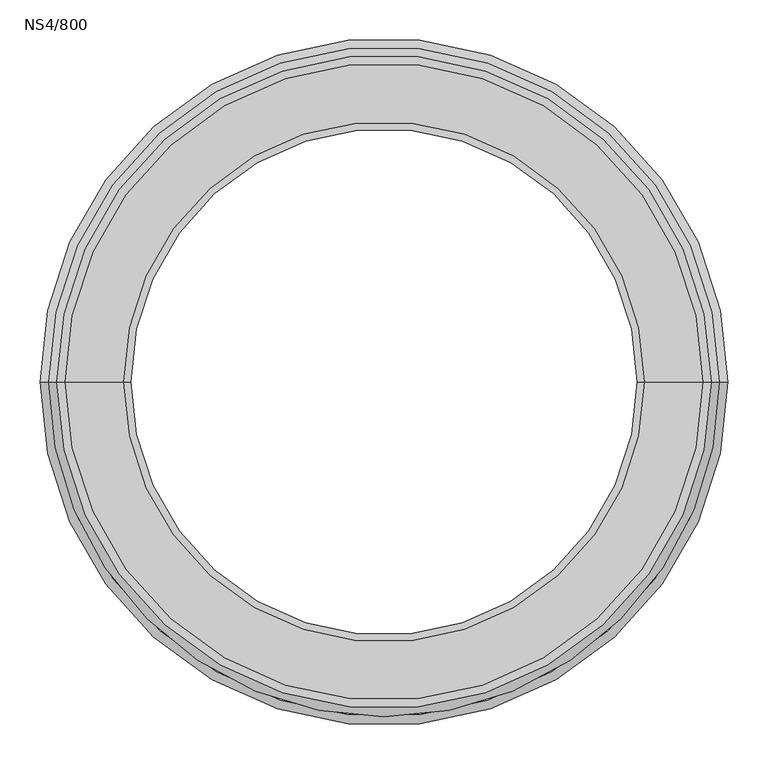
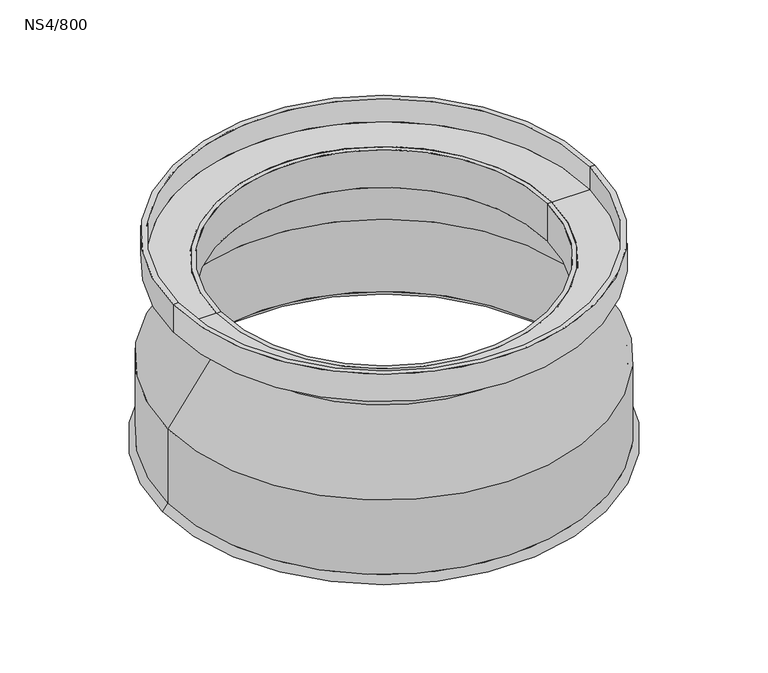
"""IFC4 building model written with IfcOpenShell, lengths in millimetres: proxy geometry, ME_PE_UN_Lipumax-PSD_ACO : NS4/800."""

from ifc_helpers import new_model, si_unit, frame, origin, place, context, project, spatial, polyline, circle_curve, source, transform, mapped, element, save
from ifc_brep_helpers import plane_surface, cylinder_surface, revolved_surface, advanced_brep


def ns4_800_0bbe8e35(model_context):
    return source(origin(), model_context, "Body", "AdvancedBrep", [
        advanced_brep(
        [(408.0, 0.0, -234.875), (-408.0, 0.0, -234.875), (-398.0, 0.0, -234.875), (398.0, 0.0, -234.875), (408.0, 0.0, -290.875), (-408.0, 0.0, -290.875), (325.0, 0.0, -290.875), (-325.0, 0.0, -290.875), (325.0, 0.0, -281.875), (-325.0, 0.0, -281.875), (398.0, 0.0, -281.875), (-398.0, 0.0, -281.875)],
        [
            (0, 1, circle_curve(frame((0.0, 0.0, -234.875), z_axis=(0.0, 0.0, 1.0), x_axis=(-1.0, 0.0, 0.0)), 408.0)),
            (1, 2),
            (2, 3, circle_curve(frame((0.0, 0.0, -234.875), z_axis=(0.0, 0.0, -1.0), x_axis=(-1.0, 0.0, 0.0)), 398.0)),
            (3, 0),
            (1, 0, circle_curve(frame((0.0, 0.0, -234.875), z_axis=(0.0, 0.0, 1.0), x_axis=(-1.0, 0.0, 0.0)), 408.0)),
            (3, 2, circle_curve(frame((0.0, 0.0, -234.875), z_axis=(0.0, 0.0, -1.0), x_axis=(-1.0, 0.0, 0.0)), 398.0)),
            (4, 5, circle_curve(frame((0.0, 0.0, -290.875), z_axis=(0.0, 0.0, 1.0), x_axis=(-1.0, 0.0, 0.0)), 408.0)),
            (5, 1),
            (0, 4),
            (5, 4, circle_curve(frame((0.0, 0.0, -290.875), z_axis=(0.0, 0.0, 1.0), x_axis=(-1.0, 0.0, 0.0)), 408.0)),
            (6, 7, circle_curve(frame((0.0, 0.0, -290.875), z_axis=(0.0, 0.0, 1.0), x_axis=(-1.0, 0.0, 0.0)), 325.0)),
            (7, 5),
            (4, 6),
            (7, 6, circle_curve(frame((0.0, 0.0, -290.875), z_axis=(0.0, 0.0, 1.0), x_axis=(-1.0, 0.0, 0.0)), 325.0)),
            (8, 9, circle_curve(frame((0.0, 0.0, -281.875), z_axis=(0.0, 0.0, 1.0), x_axis=(-1.0, 0.0, 0.0)), 325.0)),
            (9, 7),
            (6, 8),
            (9, 8, circle_curve(frame((0.0, 0.0, -281.875), z_axis=(0.0, 0.0, 1.0), x_axis=(-1.0, 0.0, 0.0)), 325.0)),
            (10, 11, circle_curve(frame((0.0, 0.0, -281.875), z_axis=(0.0, 0.0, 1.0), x_axis=(-1.0, 0.0, 0.0)), 398.0)),
            (11, 9),
            (8, 10),
            (11, 10, circle_curve(frame((0.0, 0.0, -281.875), z_axis=(0.0, 0.0, 1.0), x_axis=(-1.0, 0.0, 0.0)), 398.0)),
            (2, 11),
            (10, 3),
        ],
        [
            plane_surface(frame((0.0, 0.0, -234.875), z_axis=(0.0, 0.0, 1.0), x_axis=(-1.0, 0.0, 0.0))),
            cylinder_surface(frame((0.0, 0.0, -114.875), z_axis=(0.0, 0.0, -1.0), x_axis=(-1.0, 0.0, 0.0)), 408.0),
            plane_surface(frame((0.0, 0.0, -290.875), z_axis=(0.0, 0.0, -1.0), x_axis=(-1.0, 0.0, 0.0))),
            revolved_surface(polyline([(-325.0, 0.0, -290.875), (-325.0, 0.0, -281.875)]), (0.0, 0.0, -114.875), (0.0, 0.0, -1.0)),
            plane_surface(frame((0.0, 0.0, -281.875), z_axis=(0.0, 0.0, 1.0), x_axis=(-1.0, 0.0, 0.0))),
            revolved_surface(polyline([(-398.0, 0.0, -281.875), (-398.0, 0.0, -234.875)]), (0.0, 0.0, -114.875), (0.0, 0.0, -1.0)),
        ],
        [
            (0, [[1, 2, 3, 4]]),
            (0, [[5, -4, 6, -2]]),
            (1, [[7, 8, -1, 9]]),
            (1, [[10, -9, -5, -8]]),
            (2, [[11, 12, -7, 13]]),
            (2, [[14, -13, -10, -12]]),
            (3, [[15, 16, -11, 17]]),
            (3, [[18, -17, -14, -16]]),
            (4, [[19, 20, -15, 21]]),
            (4, [[22, -21, -18, -20]]),
            (5, [[-3, 23, -19, 24]]),
            (5, [[-6, -24, -22, -23]]),
        ],
    ),
        advanced_brep(
        [(-316.0, 0.0, -358.9538795), (316.0, 0.0, -358.9538795), (316.0, 0.0, -282.0), (-316.0, 0.0, -282.0), (-409.0, 0.0, -488.854905), (409.0, 0.0, -488.854905), (-409.0, 0.0, -637.271316), (409.0, 0.0, -637.271316), (-418.0, 0.0, -485.9653211), (418.0, 0.0, -485.9653211), (418.0, 0.0, -637.8907105), (-418.0, 0.0, -637.8907105), (-325.0, 0.0, -356.0642956), (325.0, 0.0, -356.0642956), (-325.0, 0.0, -282.0), (325.0, 0.0, -282.0), (-420.5197337, 0.0, -651.0), (420.5197337, 0.0, -651.0), (-429.0, 0.0, -651.0), (429.0, 0.0, -651.0)],
        [
            (0, 1, circle_curve(frame((0.0, 0.0, -358.9538795), z_axis=(0.0, 0.0, -1.0), x_axis=(1.0, 0.0, 0.0)), 316.0)),
            (1, 2),
            (2, 3, circle_curve(frame((0.0, 0.0, -282.0), z_axis=(0.0, 0.0, 1.0), x_axis=(1.0, 0.0, 0.0)), 316.0)),
            (3, 0),
            (1, 0, circle_curve(frame((0.0, 0.0, -358.9538795), z_axis=(0.0, 0.0, -1.0), x_axis=(1.0, 0.0, 0.0)), 316.0)),
            (3, 2, circle_curve(frame((0.0, 0.0, -282.0), z_axis=(0.0, 0.0, 1.0), x_axis=(1.0, 0.0, 0.0)), 316.0)),
            (4, 5, circle_curve(frame((0.0, 0.0, -488.854905), z_axis=(0.0, 0.0, -1.0), x_axis=(1.0, 0.0, 0.0)), 409.0)),
            (5, 1),
            (0, 4),
            (5, 4, circle_curve(frame((0.0, 0.0, -488.854905), z_axis=(0.0, 0.0, -1.0), x_axis=(1.0, 0.0, 0.0)), 409.0)),
            (6, 7, circle_curve(frame((0.0, 0.0, -637.271316), z_axis=(0.0, 0.0, -1.0), x_axis=(1.0, 0.0, 0.0)), 409.0)),
            (7, 5),
            (4, 6),
            (7, 6, circle_curve(frame((0.0, 0.0, -637.271316), z_axis=(0.0, 0.0, -1.0), x_axis=(1.0, 0.0, 0.0)), 409.0)),
            (8, 9, circle_curve(frame((0.0, 0.0, -485.9653211), z_axis=(0.0, 0.0, -1.0), x_axis=(1.0, 0.0, 0.0)), 418.0)),
            (9, 10),
            (10, 11, circle_curve(frame((0.0, 0.0, -637.8907105), z_axis=(0.0, 0.0, 1.0), x_axis=(1.0, 0.0, 0.0)), 418.0)),
            (11, 8),
            (9, 8, circle_curve(frame((0.0, 0.0, -485.9653211), z_axis=(0.0, 0.0, -1.0), x_axis=(1.0, 0.0, 0.0)), 418.0)),
            (11, 10, circle_curve(frame((0.0, 0.0, -637.8907105), z_axis=(0.0, 0.0, 1.0), x_axis=(1.0, 0.0, 0.0)), 418.0)),
            (12, 13, circle_curve(frame((0.0, 0.0, -356.0642956), z_axis=(0.0, 0.0, -1.0), x_axis=(1.0, 0.0, 0.0)), 325.0)),
            (13, 9),
            (8, 12),
            (13, 12, circle_curve(frame((0.0, 0.0, -356.0642956), z_axis=(0.0, 0.0, -1.0), x_axis=(1.0, 0.0, 0.0)), 325.0)),
            (14, 15, circle_curve(frame((0.0, 0.0, -282.0), z_axis=(0.0, 0.0, -1.0), x_axis=(1.0, 0.0, 0.0)), 325.0)),
            (15, 13),
            (12, 14),
            (15, 14, circle_curve(frame((0.0, 0.0, -282.0), z_axis=(0.0, 0.0, -1.0), x_axis=(1.0, 0.0, 0.0)), 325.0)),
            (16, 17, circle_curve(frame((0.0, 0.0, -651.0), z_axis=(0.0, 0.0, -1.0), x_axis=(1.0, 0.0, 0.0)), 420.5197337)),
            (17, 7),
            (6, 16),
            (17, 16, circle_curve(frame((0.0, 0.0, -651.0), z_axis=(0.0, 0.0, -1.0), x_axis=(1.0, 0.0, 0.0)), 420.5197337)),
            (18, 19, circle_curve(frame((0.0, 0.0, -651.0), z_axis=(0.0, 0.0, -1.0), x_axis=(1.0, 0.0, 0.0)), 429.0)),
            (19, 17),
            (16, 18),
            (19, 18, circle_curve(frame((0.0, 0.0, -651.0), z_axis=(0.0, 0.0, -1.0), x_axis=(1.0, 0.0, 0.0)), 429.0)),
            (10, 19),
            (18, 11),
            (2, 15),
            (14, 3),
        ],
        [
            revolved_surface(polyline([(316.0, 0.0, -282.0), (316.0, 0.0, -358.9538795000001)]), (0.0, 0.0, 380.0), (0.0, 0.0, 1.0)),
            revolved_surface(polyline([(316.0, 0.0, -358.9538795), (409.0, 0.0, -488.854905)]), (0.0, 0.0, 380.0), (0.0, 0.0, 1.0)),
            revolved_surface(polyline([(409.0, 0.0, -488.8549049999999), (409.0, 0.0, -637.271316)]), (0.0, 0.0, 380.0), (0.0, 0.0, 1.0)),
            cylinder_surface(frame((0.0, 0.0, 380.0), z_axis=(0.0, 0.0, 1.0), x_axis=(1.0, 0.0, 0.0)), 418.0),
            revolved_surface(polyline([(418.0, 0.0, -485.9653211), (325.0, 0.0, -356.0642956)]), (0.0, 0.0, 380.0), (0.0, 0.0, 1.0)),
            cylinder_surface(frame((0.0, 0.0, 380.0), z_axis=(0.0, 0.0, 1.0), x_axis=(1.0, 0.0, 0.0)), 325.0),
            revolved_surface(polyline([(409.0, 0.0, -637.271316), (420.5197337, 0.0, -651.0)]), (0.0, 0.0, 380.0), (0.0, 0.0, 1.0)),
            plane_surface(frame((0.0, 0.0, -651.0), z_axis=(0.0, 0.0, -1.0), x_axis=(1.0, 0.0, 0.0))),
            revolved_surface(polyline([(429.0, 0.0, -651.0), (418.0, 0.0, -637.8907105)]), (0.0, 0.0, 380.0), (0.0, 0.0, 1.0)),
            plane_surface(frame((0.0, 0.0, -282.0), z_axis=(0.0, 0.0, 1.0), x_axis=(1.0, 0.0, 0.0))),
        ],
        [
            (0, [[1, 2, 3, 4]]),
            (0, [[5, -4, 6, -2]]),
            (1, [[7, 8, -1, 9]]),
            (1, [[10, -9, -5, -8]]),
            (2, [[11, 12, -7, 13]]),
            (2, [[14, -13, -10, -12]]),
            (3, [[15, 16, 17, 18]]),
            (3, [[19, -18, 20, -16]]),
            (4, [[21, 22, -15, 23]]),
            (4, [[24, -23, -19, -22]]),
            (5, [[25, 26, -21, 27]]),
            (5, [[28, -27, -24, -26]]),
            (6, [[29, 30, -11, 31]]),
            (6, [[32, -31, -14, -30]]),
            (7, [[33, 34, -29, 35]]),
            (7, [[36, -35, -32, -34]]),
            (8, [[-17, 37, -33, 38]]),
            (8, [[-20, -38, -36, -37]]),
            (9, [[-3, 39, -25, 40]]),
            (9, [[-6, -40, -28, -39]]),
        ],
    ),
    ])


if __name__ == "__main__":
    model = new_model("IFC4")
    model_context = context("Model", 3, world=origin())
    ifc_project = project(units=[si_unit("LENGTHUNIT", "METRE", prefix="MILLI")], contexts=[model_context])
    site = spatial("IfcSite", under=ifc_project)
    building = spatial("IfcBuilding", under=site)
    placement = place(None, origin())
    ns4_800_shape = ns4_800_0bbe8e35(model_context)
    element("IfcBuildingElementProxy", 1, Name="ME_PE_UN_Lipumax-PSD_ACO : NS4/800", ObjectType="ME_PE_UN_Lipumax-PSD_ACO : NS4/800", at=placement, inside=building, context=model_context, shape_type="MappedRepresentation", body=[
        mapped(ns4_800_shape, transform((0.0, 0.0, 0.0), x_axis=(1.0, 0.0, 0.0), y_axis=(0.0, 1.0, 0.0), z_axis=(0.0, 0.0, 1.0))),
    ])
    save(model, "model.ifc")
